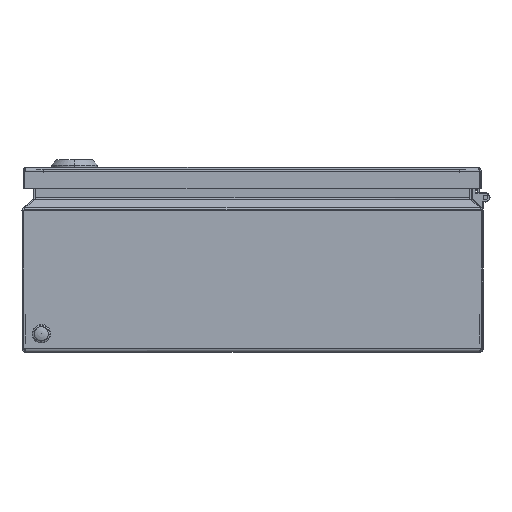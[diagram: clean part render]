
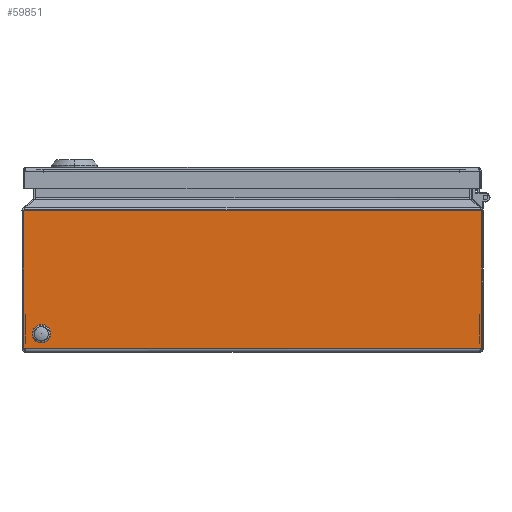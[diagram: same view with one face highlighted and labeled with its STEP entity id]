
A CAD part, front view. The second image highlights one B-rep face of the part: STEP entity #59851.
In plain terms, the highlighted planar face has unit normal (0, -1, 0).
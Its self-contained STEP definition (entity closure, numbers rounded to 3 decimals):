
#260 = ORIENTED_EDGE ( 'NONE', *, *, #31613, .T. ) ;
#1559 = CARTESIAN_POINT ( 'NONE',  ( -148.623, -200., 92.119 ) ) ;
#3115 = ORIENTED_EDGE ( 'NONE', *, *, #83345, .F. ) ;
#5275 = CARTESIAN_POINT ( 'NONE',  ( -149.291, -200., 2.4 ) ) ;
#5490 = VERTEX_POINT ( 'NONE', #125610 ) ;
#7792 = DIRECTION ( 'NONE',  ( 0., 0., -1. ) ) ;
#8498 = VERTEX_POINT ( 'NONE', #5275 ) ;
#17831 = VECTOR ( 'NONE', #63090, 1000. ) ;
#17982 = LINE ( 'NONE', #89687, #42726 ) ;
#18026 = CIRCLE ( 'NONE', #31081, 4.5 ) ;
#18218 = DIRECTION ( 'NONE',  ( 0., -1., 0. ) ) ;
#20008 = ORIENTED_EDGE ( 'NONE', *, *, #33826, .T. ) ;
#20386 = VECTOR ( 'NONE', #26663, 1000. ) ;
#21456 = CARTESIAN_POINT ( 'NONE',  ( 149.4, -200., 2.4 ) ) ;
#22637 = CARTESIAN_POINT ( 'NONE',  ( 2150., -200., 2.4 ) ) ;
#24138 = ORIENTED_EDGE ( 'NONE', *, *, #30953, .F. ) ;
#24785 = AXIS2_PLACEMENT_3D ( 'NONE', #58931, #57600, #7792 ) ;
#26166 = VECTOR ( 'NONE', #46823, 1000. ) ;
#26663 = DIRECTION ( 'NONE',  ( -0.707, 0., 0.707 ) ) ;
#27970 = EDGE_CURVE ( 'NONE', #110623, #30179, #112224, .T. ) ;
#28580 = EDGE_CURVE ( 'NONE', #130473, #100642, #18026, .T. ) ;
#30179 = VERTEX_POINT ( 'NONE', #109424 ) ;
#30780 = EDGE_CURVE ( 'NONE', #100642, #130473, #31258, .T. ) ;
#30934 = VECTOR ( 'NONE', #35326, 1000. ) ;
#30953 = EDGE_CURVE ( 'NONE', #110623, #8498, #54073, .T. ) ;
#31081 = AXIS2_PLACEMENT_3D ( 'NONE', #111723, #18218, #133711 ) ;
#31123 = ORIENTED_EDGE ( 'NONE', *, *, #96749, .F. ) ;
#31258 = CIRCLE ( 'NONE', #24785, 4.5 ) ;
#31613 = EDGE_CURVE ( 'NONE', #70592, #39164, #17982, .T. ) ;
#33752 = ORIENTED_EDGE ( 'NONE', *, *, #28580, .F. ) ;
#33826 = EDGE_CURVE ( 'NONE', #88168, #70592, #121671, .T. ) ;
#35326 = DIRECTION ( 'NONE',  ( 0., 0., 1. ) ) ;
#39164 = VERTEX_POINT ( 'NONE', #1559 ) ;
#42726 = VECTOR ( 'NONE', #131454, 1000. ) ;
#46823 = DIRECTION ( 'NONE',  ( 1., 0., 0. ) ) ;
#48826 = VECTOR ( 'NONE', #76547, 1000. ) ;
#51887 = CARTESIAN_POINT ( 'NONE',  ( 2150., -200., 92.119 ) ) ;
#54073 = LINE ( 'NONE', #22637, #48826 ) ;
#55359 = ORIENTED_EDGE ( 'NONE', *, *, #27970, .T. ) ;
#56252 = VECTOR ( 'NONE', #131311, 1000. ) ;
#56253 = CARTESIAN_POINT ( 'NONE',  ( 148.623, -200., 92.119 ) ) ;
#57600 = DIRECTION ( 'NONE',  ( 0., -1., 0. ) ) ;
#58931 = CARTESIAN_POINT ( 'NONE',  ( -137.4, -200., 12. ) ) ;
#59851 = ADVANCED_FACE ( 'NONE', ( #60815, #113368 ), #62133, .F. ) ;
#60815 = FACE_OUTER_BOUND ( 'NONE', #128510, .T. ) ;
#62133 = PLANE ( 'NONE',  #87890 ) ;
#63021 = CARTESIAN_POINT ( 'NONE',  ( 73.445, -200., -73.445 ) ) ;
#63090 = DIRECTION ( 'NONE',  ( 0., 0., 1. ) ) ;
#63677 = ORIENTED_EDGE ( 'NONE', *, *, #106499, .F. ) ;
#65372 = CARTESIAN_POINT ( 'NONE',  ( -149.4, -200., 2.4 ) ) ;
#70592 = VERTEX_POINT ( 'NONE', #56253 ) ;
#72461 = ORIENTED_EDGE ( 'NONE', *, *, #111611, .T. ) ;
#76547 = DIRECTION ( 'NONE',  ( -1., 0., 0. ) ) ;
#83345 = EDGE_CURVE ( 'NONE', #5490, #39164, #98730, .T. ) ;
#87890 = AXIS2_PLACEMENT_3D ( 'NONE', #51887, #101102, #122306 ) ;
#88168 = VERTEX_POINT ( 'NONE', #113385 ) ;
#89687 = CARTESIAN_POINT ( 'NONE',  ( 2150., -200., 92.119 ) ) ;
#92420 = CARTESIAN_POINT ( 'NONE',  ( -137.4, -200., 16.5 ) ) ;
#93805 = LINE ( 'NONE', #21456, #17831 ) ;
#96749 = EDGE_CURVE ( 'NONE', #114121, #5490, #128973, .T. ) ;
#98730 = LINE ( 'NONE', #119239, #26166 ) ;
#100462 = CARTESIAN_POINT ( 'NONE',  ( -137.4, -200., 7.5 ) ) ;
#100642 = VERTEX_POINT ( 'NONE', #100462 ) ;
#101102 = DIRECTION ( 'NONE',  ( 0., 1., 0. ) ) ;
#106499 = EDGE_CURVE ( 'NONE', #8498, #114121, #131258, .T. ) ;
#107648 = EDGE_LOOP ( 'NONE', ( #121011, #33752 ) ) ;
#109424 = CARTESIAN_POINT ( 'NONE',  ( 149.4, -200., 2.509 ) ) ;
#110176 = CARTESIAN_POINT ( 'NONE',  ( -149.4, -200., 2.509 ) ) ;
#110623 = VERTEX_POINT ( 'NONE', #130242 ) ;
#110672 = CARTESIAN_POINT ( 'NONE',  ( 149.4, -200., 92.119 ) ) ;
#111611 = EDGE_CURVE ( 'NONE', #30179, #88168, #93805, .T. ) ;
#111723 = CARTESIAN_POINT ( 'NONE',  ( -137.4, -200., 12. ) ) ;
#111955 = CARTESIAN_POINT ( 'NONE',  ( -73.445, -200., -73.445 ) ) ;
#112224 = LINE ( 'NONE', #63021, #133564 ) ;
#113368 = FACE_BOUND ( 'NONE', #107648, .T. ) ;
#113385 = CARTESIAN_POINT ( 'NONE',  ( 149.4, -200., 92.119 ) ) ;
#114121 = VERTEX_POINT ( 'NONE', #110176 ) ;
#119239 = CARTESIAN_POINT ( 'NONE',  ( -149.4, -200., 92.119 ) ) ;
#121011 = ORIENTED_EDGE ( 'NONE', *, *, #30780, .F. ) ;
#121671 = LINE ( 'NONE', #110672, #56252 ) ;
#122306 = DIRECTION ( 'NONE',  ( 0., 0., -1. ) ) ;
#125610 = CARTESIAN_POINT ( 'NONE',  ( -149.4, -200., 92.119 ) ) ;
#128510 = EDGE_LOOP ( 'NONE', ( #24138, #55359, #72461, #20008, #260, #3115, #31123, #63677 ) ) ;
#128973 = LINE ( 'NONE', #65372, #30934 ) ;
#130242 = CARTESIAN_POINT ( 'NONE',  ( 149.291, -200., 2.4 ) ) ;
#130473 = VERTEX_POINT ( 'NONE', #92420 ) ;
#131258 = LINE ( 'NONE', #111955, #20386 ) ;
#131311 = DIRECTION ( 'NONE',  ( -1., 0., 0. ) ) ;
#131454 = DIRECTION ( 'NONE',  ( -1., 0., 0. ) ) ;
#133525 = DIRECTION ( 'NONE',  ( 0.707, 0., 0.707 ) ) ;
#133564 = VECTOR ( 'NONE', #133525, 1000. ) ;
#133711 = DIRECTION ( 'NONE',  ( 0., 0., -1. ) ) ;
